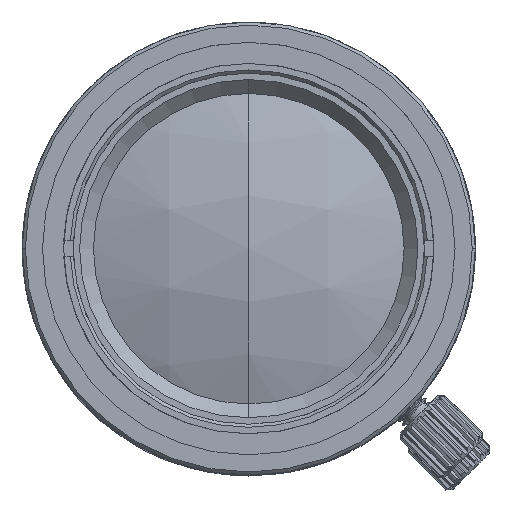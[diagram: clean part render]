
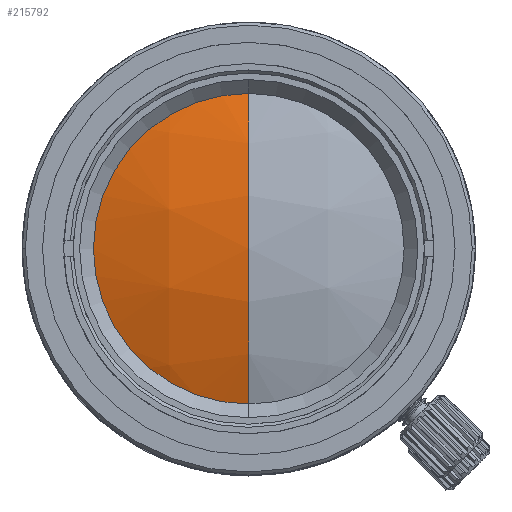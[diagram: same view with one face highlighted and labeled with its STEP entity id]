
A CAD part, top view. The second image highlights one B-rep face of the part: STEP entity #215792.
In plain terms, the highlighted spherical face has radius 27.783 mm.
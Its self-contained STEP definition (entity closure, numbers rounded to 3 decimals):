
#3789 = DIRECTION ( 'NONE',  ( 0., 0., -1. ) ) ;
#9934 = CARTESIAN_POINT ( 'NONE',  ( 0., 9.99, 35.011 ) ) ;
#10333 = CARTESIAN_POINT ( 'NONE',  ( 0., 0., 9.087 ) ) ;
#26530 = CIRCLE ( 'NONE', #115376, 9.99 ) ;
#27479 = EDGE_CURVE ( 'NONE', #96523, #100789, #101533, .T. ) ;
#33521 = EDGE_LOOP ( 'NONE', ( #135388, #138830, #56749 ) ) ;
#37715 = EDGE_CURVE ( 'NONE', #96523, #174189, #199100, .T. ) ;
#45193 = SPHERICAL_SURFACE ( 'NONE', #132238, 27.783 ) ;
#56749 = ORIENTED_EDGE ( 'NONE', *, *, #173603, .F. ) ;
#58295 = CARTESIAN_POINT ( 'NONE',  ( 0., 0., 36.87 ) ) ;
#65524 = DIRECTION ( 'NONE',  ( 0., 1., 0. ) ) ;
#73893 = DIRECTION ( 'NONE',  ( 0., 0., 1. ) ) ;
#91611 = DIRECTION ( 'NONE',  ( 1., 0., 0. ) ) ;
#96523 = VERTEX_POINT ( 'NONE', #58295 ) ;
#100789 = VERTEX_POINT ( 'NONE', #203556 ) ;
#101533 = CIRCLE ( 'NONE', #174998, 27.783 ) ;
#115376 = AXIS2_PLACEMENT_3D ( 'NONE', #263262, #3789, #242438 ) ;
#130985 = AXIS2_PLACEMENT_3D ( 'NONE', #10333, #248986, #73893 ) ;
#132238 = AXIS2_PLACEMENT_3D ( 'NONE', #237844, #194280, #65524 ) ;
#135388 = ORIENTED_EDGE ( 'NONE', *, *, #27479, .F. ) ;
#138830 = ORIENTED_EDGE ( 'NONE', *, *, #37715, .T. ) ;
#146904 = FACE_OUTER_BOUND ( 'NONE', #33521, .T. ) ;
#173603 = EDGE_CURVE ( 'NONE', #100789, #174189, #26530, .T. ) ;
#174189 = VERTEX_POINT ( 'NONE', #9934 ) ;
#174998 = AXIS2_PLACEMENT_3D ( 'NONE', #262053, #91611, #243085 ) ;
#194280 = DIRECTION ( 'NONE',  ( 1., 0., 0. ) ) ;
#199100 = CIRCLE ( 'NONE', #130985, 27.783 ) ;
#203556 = CARTESIAN_POINT ( 'NONE',  ( 0., -9.99, 35.011 ) ) ;
#215792 = ADVANCED_FACE ( 'NONE', ( #146904 ), #45193, .T. ) ;
#237844 = CARTESIAN_POINT ( 'NONE',  ( 0., 0., 9.087 ) ) ;
#242438 = DIRECTION ( 'NONE',  ( -1., 0., 0. ) ) ;
#243085 = DIRECTION ( 'NONE',  ( 0., 1., 0. ) ) ;
#248986 = DIRECTION ( 'NONE',  ( -1., 0., 0. ) ) ;
#262053 = CARTESIAN_POINT ( 'NONE',  ( 0., 0., 9.087 ) ) ;
#263262 = CARTESIAN_POINT ( 'NONE',  ( 0., 0., 35.011 ) ) ;
